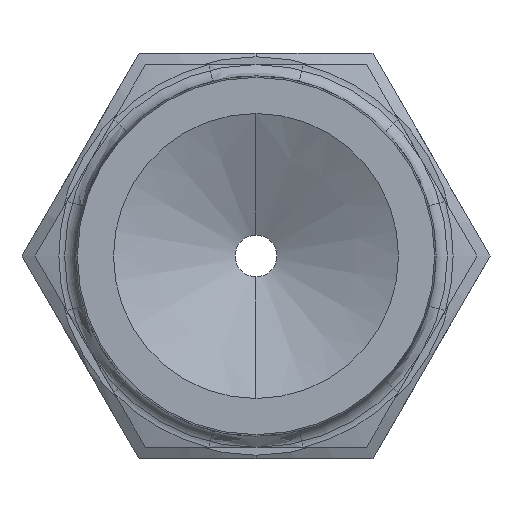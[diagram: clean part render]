
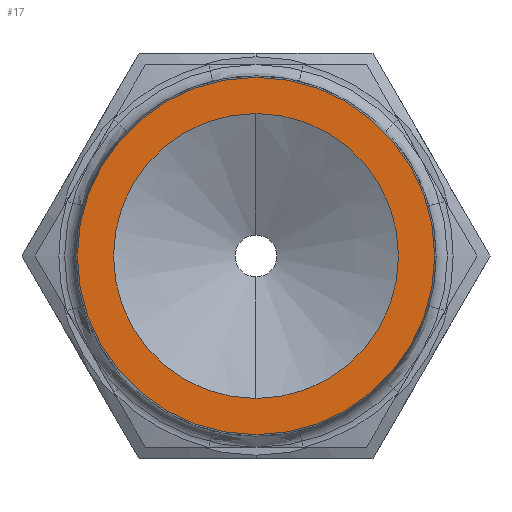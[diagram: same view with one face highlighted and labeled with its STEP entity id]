
A CAD part, left-side view. The second image highlights one B-rep face of the part: STEP entity #17.
In plain terms, the highlighted planar face has unit normal (-1, 0, 0).
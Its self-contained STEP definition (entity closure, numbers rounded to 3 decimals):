
#17 = ADVANCED_FACE ( 'NONE', ( #789, #788 ), #861, .T. ) ;
#18 = ORIENTED_EDGE ( 'NONE', *, *, #19, .T. ) ;
#19 = EDGE_CURVE ( 'NONE', #574, #308, #1075, .T. ) ;
#20 = ORIENTED_EDGE ( 'NONE', *, *, #307, .T. ) ;
#21 = EDGE_LOOP ( 'NONE', ( #22, #23 ) ) ;
#22 = ORIENTED_EDGE ( 'NONE', *, *, #31, .F. ) ;
#23 = ORIENTED_EDGE ( 'NONE', *, *, #429, .F. ) ;
#31 = EDGE_CURVE ( 'NONE', #430, #427, #944, .T. ) ;
#32 = EDGE_LOOP ( 'NONE', ( #18, #20 ) ) ;
#307 = EDGE_CURVE ( 'NONE', #308, #574, #1534, .T. ) ;
#308 = VERTEX_POINT ( 'NONE', #1524 ) ;
#427 = VERTEX_POINT ( 'NONE', #1802 ) ;
#429 = EDGE_CURVE ( 'NONE', #427, #430, #1801, .T. ) ;
#430 = VERTEX_POINT ( 'NONE', #1796 ) ;
#574 = VERTEX_POINT ( 'NONE', #2096 ) ;
#788 = FACE_BOUND ( 'NONE', #21, .T. ) ;
#789 = FACE_OUTER_BOUND ( 'NONE', #32, .T. ) ;
#857 = CARTESIAN_POINT ( 'NONE',  ( -32.5, 0., 0. ) ) ;
#858 = AXIS2_PLACEMENT_3D ( 'NONE', #857, #1089, #974 ) ;
#861 = PLANE ( 'NONE',  #858 ) ;
#940 = DIRECTION ( 'NONE',  ( 0., 0., 1. ) ) ;
#941 = DIRECTION ( 'NONE',  ( -1., 0., 0. ) ) ;
#942 = CARTESIAN_POINT ( 'NONE',  ( -32.5, 0., 0. ) ) ;
#943 = AXIS2_PLACEMENT_3D ( 'NONE', #942, #941, #940 ) ;
#944 = CIRCLE ( 'NONE', #943, 10.05 ) ;
#974 = DIRECTION ( 'NONE',  ( 0., 0., 1. ) ) ;
#1067 = DIRECTION ( 'NONE',  ( 0., 0., 1. ) ) ;
#1068 = DIRECTION ( 'NONE',  ( -1., 0., 0. ) ) ;
#1069 = CARTESIAN_POINT ( 'NONE',  ( -32.5, 0., 0. ) ) ;
#1070 = AXIS2_PLACEMENT_3D ( 'NONE', #1069, #1068, #1067 ) ;
#1075 = CIRCLE ( 'NONE', #1070, 12.595 ) ;
#1089 = DIRECTION ( 'NONE',  ( -1., 0., 0. ) ) ;
#1524 = CARTESIAN_POINT ( 'NONE',  ( -32.5, 0., -12.595 ) ) ;
#1525 = DIRECTION ( 'NONE',  ( 0., 0., 1. ) ) ;
#1526 = DIRECTION ( 'NONE',  ( -1., 0., 0. ) ) ;
#1527 = CARTESIAN_POINT ( 'NONE',  ( -32.5, 0., 0. ) ) ;
#1528 = AXIS2_PLACEMENT_3D ( 'NONE', #1527, #1526, #1525 ) ;
#1534 = CIRCLE ( 'NONE', #1528, 12.595 ) ;
#1796 = CARTESIAN_POINT ( 'NONE',  ( -32.5, 0., 10.05 ) ) ;
#1797 = DIRECTION ( 'NONE',  ( 0., 0., 1. ) ) ;
#1798 = DIRECTION ( 'NONE',  ( -1., 0., 0. ) ) ;
#1799 = CARTESIAN_POINT ( 'NONE',  ( -32.5, 0., 0. ) ) ;
#1800 = AXIS2_PLACEMENT_3D ( 'NONE', #1799, #1798, #1797 ) ;
#1801 = CIRCLE ( 'NONE', #1800, 10.05 ) ;
#1802 = CARTESIAN_POINT ( 'NONE',  ( -32.5, 0., -10.05 ) ) ;
#2096 = CARTESIAN_POINT ( 'NONE',  ( -32.5, 0., 12.595 ) ) ;
